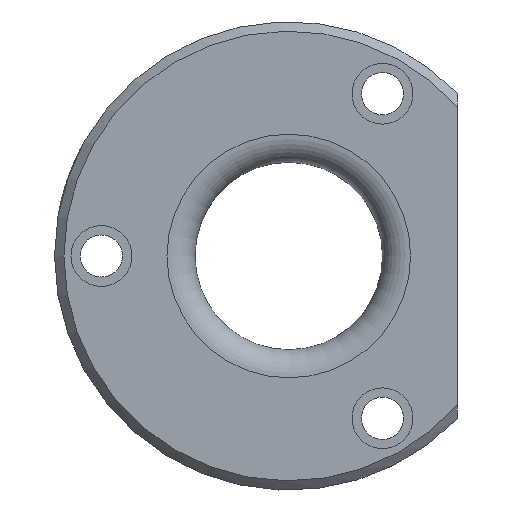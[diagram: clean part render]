
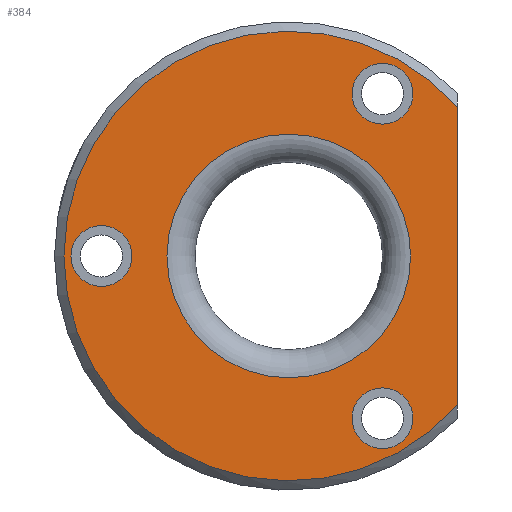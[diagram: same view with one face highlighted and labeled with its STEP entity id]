
A CAD part, left-side view. The second image highlights one B-rep face of the part: STEP entity #384.
In plain terms, the highlighted planar face has unit normal (-1, 0, 0).
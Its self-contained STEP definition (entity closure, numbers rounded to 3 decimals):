
#21=PLANE('',#432);
#28=FACE_BOUND('',#111,.T.);
#29=FACE_BOUND('',#112,.T.);
#30=FACE_BOUND('',#113,.T.);
#31=FACE_BOUND('',#114,.T.);
#45=LINE('',#648,#60);
#60=VECTOR('',#497,10.);
#87=FACE_OUTER_BOUND('',#110,.T.);
#110=EDGE_LOOP('',(#268,#269));
#111=EDGE_LOOP('',(#270));
#112=EDGE_LOOP('',(#271));
#113=EDGE_LOOP('',(#272));
#114=EDGE_LOOP('',(#273));
#142=CIRCLE('',#425,13.);
#148=CIRCLE('',#433,24.);
#149=CIRCLE('',#434,3.25);
#150=CIRCLE('',#435,3.25);
#151=CIRCLE('',#436,3.25);
#170=VERTEX_POINT('',#593);
#177=VERTEX_POINT('',#645);
#178=VERTEX_POINT('',#646);
#179=VERTEX_POINT('',#649);
#180=VERTEX_POINT('',#651);
#181=VERTEX_POINT('',#653);
#204=EDGE_CURVE('',#170,#170,#142,.T.);
#213=EDGE_CURVE('',#177,#178,#148,.T.);
#214=EDGE_CURVE('',#177,#178,#45,.T.);
#215=EDGE_CURVE('',#179,#179,#149,.T.);
#216=EDGE_CURVE('',#180,#180,#150,.T.);
#217=EDGE_CURVE('',#181,#181,#151,.T.);
#268=ORIENTED_EDGE('',*,*,#213,.F.);
#269=ORIENTED_EDGE('',*,*,#214,.T.);
#270=ORIENTED_EDGE('',*,*,#215,.T.);
#271=ORIENTED_EDGE('',*,*,#216,.T.);
#272=ORIENTED_EDGE('',*,*,#217,.T.);
#273=ORIENTED_EDGE('',*,*,#204,.F.);
#384=ADVANCED_FACE('',(#87,#28,#29,#30,#31),#21,.T.);
#425=AXIS2_PLACEMENT_3D('',#594,#478,#479);
#432=AXIS2_PLACEMENT_3D('',#644,#493,#494);
#433=AXIS2_PLACEMENT_3D('',#647,#495,#496);
#434=AXIS2_PLACEMENT_3D('',#650,#498,#499);
#435=AXIS2_PLACEMENT_3D('',#652,#500,#501);
#436=AXIS2_PLACEMENT_3D('',#654,#502,#503);
#478=DIRECTION('center_axis',(-1.,0.,0.));
#479=DIRECTION('ref_axis',(0.,-1.,0.));
#493=DIRECTION('center_axis',(-1.,0.,0.));
#494=DIRECTION('ref_axis',(0.,0.,1.));
#495=DIRECTION('center_axis',(1.,0.,0.));
#496=DIRECTION('ref_axis',(0.,1.,0.));
#497=DIRECTION('',(0.,0.,1.));
#498=DIRECTION('center_axis',(1.,0.,0.));
#499=DIRECTION('ref_axis',(0.,0.,1.));
#500=DIRECTION('center_axis',(1.,0.,0.));
#501=DIRECTION('ref_axis',(0.,0.,1.));
#502=DIRECTION('center_axis',(1.,0.,0.));
#503=DIRECTION('ref_axis',(0.,0.,1.));
#593=CARTESIAN_POINT('',(0.,0.,13.));
#594=CARTESIAN_POINT('Origin',(0.,0.,0.));
#644=CARTESIAN_POINT('Origin',(0.,25.,0.));
#645=CARTESIAN_POINT('',(0.,-18.,-15.875));
#646=CARTESIAN_POINT('',(0.,-18.,15.875));
#647=CARTESIAN_POINT('Origin',(0.,0.,0.));
#648=CARTESIAN_POINT('',(0.,-18.,0.));
#649=CARTESIAN_POINT('',(0.,20.,-3.25));
#650=CARTESIAN_POINT('Origin',(0.,20.,0.));
#651=CARTESIAN_POINT('',(0.,-10.,-20.571));
#652=CARTESIAN_POINT('Origin',(0.,-10.,-17.321));
#653=CARTESIAN_POINT('',(0.,-10.,14.071));
#654=CARTESIAN_POINT('Origin',(0.,-10.,17.321));
